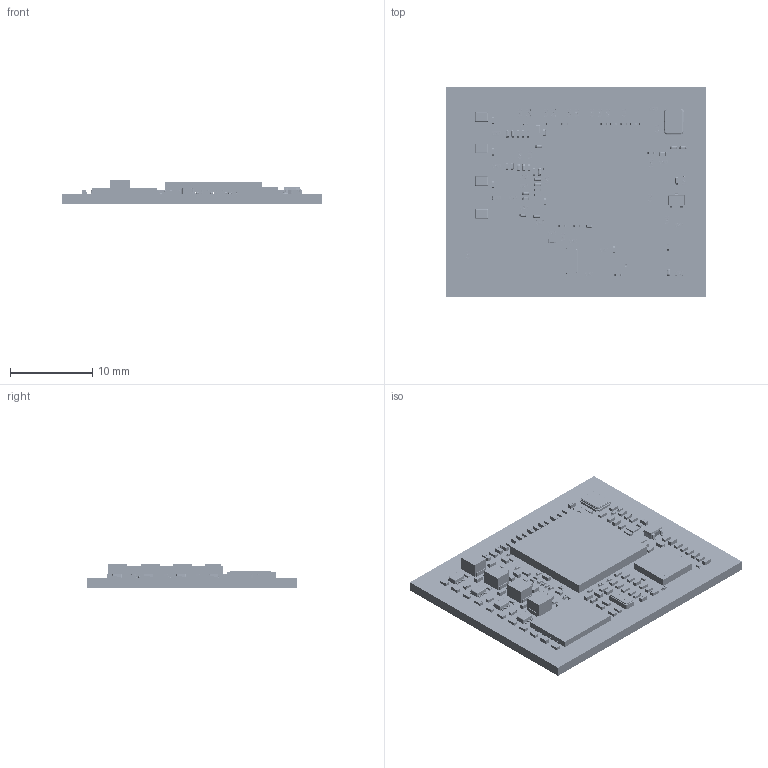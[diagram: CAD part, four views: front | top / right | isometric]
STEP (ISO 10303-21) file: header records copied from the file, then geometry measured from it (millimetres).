
FILE_DESCRIPTION(/* description */ ('PCB Design'),/* implementation_level */ '2;1');
FILE_NAME(/* name */ 'CMT41Z V2',/* time_stamp */ '2026-08-13T14:18:04+08:00',/* author */ (''),/* organization */ (''),/* preprocessor_version */ 'ST-DEVELOPER v16',/* originating_system */ 'allegro_17.2S053',/* authorisation */ '');
FILE_SCHEMA (('AUTOMOTIVE_DESIGN { 1 0 10303 214 3 1 1 }'));
Products named in the file (50): CMT41Z V2; BOARD_OUTLINE; COMPONENTS; CMT41Z_120P_P0R9_31R7X25R6; IND2016; WSON8_EP6X8; XTAL2-3P2X1P5-SM; SOT_323; DFN1X1-4L; C0402; TP30; BGA232_0D65_T41; EMI_CLIP; C0201; R0402; FB0402; C0402_E; CRY4_3R20X2R50X0R80; QFN32_0D5_SZ18201; SOT563; User Library-INDM2520X190N; 858032240; Board; User Library-WSON-8_6x8mm; 857275360; Designator14; Cylinder_2; 858031856; Extruded_2; Extruded; Extruded_3; Cylinder; 858032368; 894460672; 0637D9F9-BE46-411F-B9CE-197B637E80A1; PTSP0003JA-A; 3E59452F-ABFF-48A1-AF72-A9F3936F8A65; 0; SC0402; 1_2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
Assembly tree (223 placements, depth 7):
  CMT41Z V2
    BOARD_OUTLINE
    COMPONENTS
      CMT41Z_120P_P0R9_31R7X25R6
      IND2016  x4
        User Library-INDM2520X190N
      WSON8_EP6X8
        User Library-WSON-8_6x8mm
          Board
          Designator14
            858032368
              Extruded
            858032240  x8
              Cylinder
            858031856  x8
              Extruded_2
            857275360
              Cylinder_2
            894460672
              Extruded_3
      XTAL2-3P2X1P5-SM
        0637D9F9-BE46-411F-B9CE-197B637E80A1
      SOT_323
        PTSP0003JA-A
      DFN1X1-4L  x2
        3E59452F-ABFF-48A1-AF72-A9F3936F8A65
      C0402  x22
        0
        SC0402
      TP30  x8
      BGA232_0D65_T41
        User Library-BGA200-11.8-11.8-R0.8_45DEG
          1
          1_2
      EMI_CLIP  x8
      C0201  x45
        User Library-User Library-0201_Cap
      R0402  x57
        0
        CR1005-04021
      FB0402  x3
        User Library-INDC1005X___
      C0402_E  x15
        0
        SC0402
      CRY4_3R20X2R50X0R80
        0
        3225-1
      QFN32_0D5_SZ18201
        898AD8AF-CB27-49F9-BBC6-DCBC4CFB67FF
      SOT563  x4
        4E357751-62F2-4C9E-89FE-D179AAC9DFAF
Bounding box: 31.7 x 25.5 x 3 mm (x, y, z)
Volume: 303.1 mm3; surface area: 5218.2 mm2
Topology: 945 solids, 1111 shells, 23365 faces, 56612 edges, 35978 vertices
Faces by surface type: bspline 14683, plane 6548, cylinder 1360, sphere 736, torus 38
Entity records: 90590 total; most frequent: CARTESIAN_POINT 36931, ORIENTED_EDGE 8079, DIRECTION 6026, EDGE_CURVE 4048, VERTEX_POINT 2913, AXIS2_PLACEMENT_3D 2303, EDGE_LOOP 2123, VECTOR 1899
